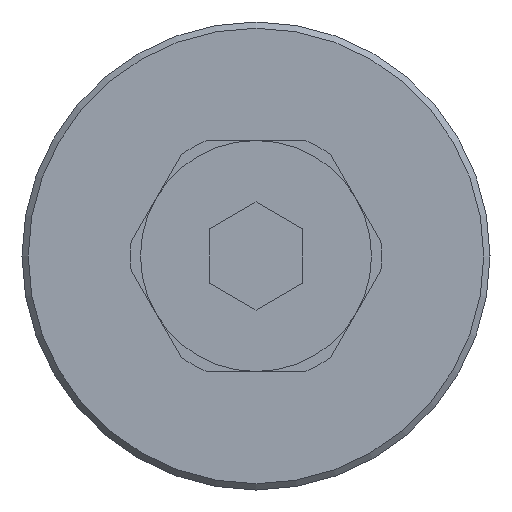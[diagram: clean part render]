
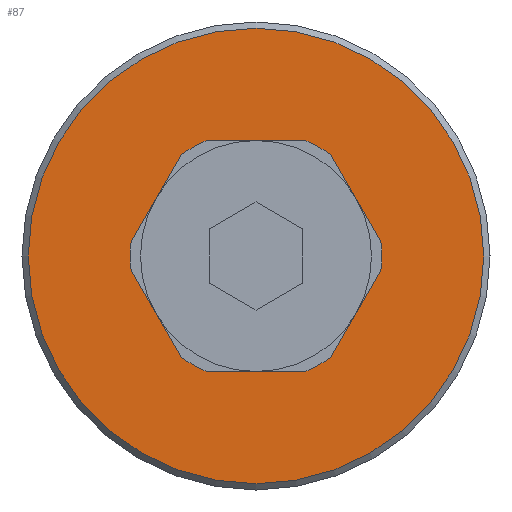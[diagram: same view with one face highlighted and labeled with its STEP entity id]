
A CAD part, left-side view. The second image highlights one B-rep face of the part: STEP entity #87.
In plain terms, the highlighted planar face has unit normal (-1, 0, 0).
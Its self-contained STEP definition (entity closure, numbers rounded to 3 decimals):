
#87 = ADVANCED_FACE( '', ( #201, #202 ), #203, .F. );
#201 = FACE_OUTER_BOUND( '', #348, .T. );
#202 = FACE_BOUND( '', #349, .T. );
#203 = PLANE( '', #350 );
#348 = EDGE_LOOP( '', ( #539 ) );
#349 = EDGE_LOOP( '', ( #540, #541, #542, #543, #544, #545, #546, #547, #548, #549, #550, #551 ) );
#350 = AXIS2_PLACEMENT_3D( '', #552, #553, #554 );
#539 = ORIENTED_EDGE( '', *, *, #823, .F. );
#540 = ORIENTED_EDGE( '', *, *, #793, .T. );
#541 = ORIENTED_EDGE( '', *, *, #825, .T. );
#542 = ORIENTED_EDGE( '', *, *, #826, .T. );
#543 = ORIENTED_EDGE( '', *, *, #827, .T. );
#544 = ORIENTED_EDGE( '', *, *, #808, .T. );
#545 = ORIENTED_EDGE( '', *, *, #828, .T. );
#546 = ORIENTED_EDGE( '', *, *, #829, .T. );
#547 = ORIENTED_EDGE( '', *, *, #830, .T. );
#548 = ORIENTED_EDGE( '', *, *, #831, .F. );
#549 = ORIENTED_EDGE( '', *, *, #817, .T. );
#550 = ORIENTED_EDGE( '', *, *, #832, .T. );
#551 = ORIENTED_EDGE( '', *, *, #800, .T. );
#552 = CARTESIAN_POINT( '', ( 0., 0., 0. ) );
#553 = DIRECTION( '', ( 1., 0., 0. ) );
#554 = DIRECTION( '', ( 0., 0., -1. ) );
#793 = EDGE_CURVE( '', #927, #928, #929, .T. );
#800 = EDGE_CURVE( '', #939, #927, #940, .T. );
#808 = EDGE_CURVE( '', #952, #953, #954, .T. );
#817 = EDGE_CURVE( '', #966, #964, #967, .T. );
#823 = EDGE_CURVE( '', #975, #975, #976, .T. );
#825 = EDGE_CURVE( '', #928, #978, #979, .T. );
#826 = EDGE_CURVE( '', #978, #980, #981, .T. );
#827 = EDGE_CURVE( '', #980, #952, #982, .T. );
#828 = EDGE_CURVE( '', #953, #983, #984, .T. );
#829 = EDGE_CURVE( '', #983, #985, #986, .T. );
#830 = EDGE_CURVE( '', #985, #987, #988, .T. );
#831 = EDGE_CURVE( '', #966, #987, #989, .F. );
#832 = EDGE_CURVE( '', #964, #939, #990, .T. );
#927 = VERTEX_POINT( '', #1106 );
#928 = VERTEX_POINT( '', #1107 );
#929 = CIRCLE( '', #1108, 4.03 );
#939 = VERTEX_POINT( '', #1122 );
#940 = LINE( '', #1123, #1124 );
#952 = VERTEX_POINT( '', #1141 );
#953 = VERTEX_POINT( '', #1142 );
#954 = CIRCLE( '', #1143, 4.03 );
#964 = VERTEX_POINT( '', #1157 );
#966 = VERTEX_POINT( '', #1160 );
#967 = LINE( '', #1161, #1162 );
#975 = VERTEX_POINT( '', #1171 );
#976 = CIRCLE( '', #1172, 7.3 );
#978 = VERTEX_POINT( '', #1174 );
#979 = LINE( '', #1175, #1176 );
#980 = VERTEX_POINT( '', #1177 );
#981 = CIRCLE( '', #1178, 4.03 );
#982 = LINE( '', #1179, #1180 );
#983 = VERTEX_POINT( '', #1181 );
#984 = LINE( '', #1182, #1183 );
#985 = VERTEX_POINT( '', #1184 );
#986 = CIRCLE( '', #1185, 4.03 );
#987 = VERTEX_POINT( '', #1186 );
#988 = LINE( '', #1187, #1188 );
#989 = CIRCLE( '', #1189, 4.03 );
#990 = CIRCLE( '', #1190, 4.03 );
#1106 = CARTESIAN_POINT( '', ( 0., -1.597, 3.7 ) );
#1107 = CARTESIAN_POINT( '', ( 0., -2.406, 3.233 ) );
#1108 = AXIS2_PLACEMENT_3D( '', #1334, #1335, #1336 );
#1122 = CARTESIAN_POINT( '', ( 0., 1.597, 3.7 ) );
#1123 = CARTESIAN_POINT( '', ( 0., 1.597, 3.7 ) );
#1124 = VECTOR( '', #1344, 1000. );
#1141 = CARTESIAN_POINT( '', ( 0., -2.406, -3.233 ) );
#1142 = CARTESIAN_POINT( '', ( 0., -1.597, -3.7 ) );
#1143 = AXIS2_PLACEMENT_3D( '', #1350, #1351, #1352 );
#1157 = CARTESIAN_POINT( '', ( 0., 2.406, 3.233 ) );
#1160 = CARTESIAN_POINT( '', ( 0., 4.003, 0.467 ) );
#1161 = CARTESIAN_POINT( '', ( 0., 4.003, 0.467 ) );
#1162 = VECTOR( '', #1361, 1000. );
#1171 = CARTESIAN_POINT( '', ( 0., 0., -7.3 ) );
#1172 = AXIS2_PLACEMENT_3D( '', #1369, #1370, #1371 );
#1174 = CARTESIAN_POINT( '', ( 0., -4.003, 0.467 ) );
#1175 = CARTESIAN_POINT( '', ( 0., -2.406, 3.233 ) );
#1176 = VECTOR( '', #1372, 1000. );
#1177 = CARTESIAN_POINT( '', ( 0., -4.003, -0.467 ) );
#1178 = AXIS2_PLACEMENT_3D( '', #1373, #1374, #1375 );
#1179 = CARTESIAN_POINT( '', ( 0., -4.003, -0.467 ) );
#1180 = VECTOR( '', #1376, 1000. );
#1181 = CARTESIAN_POINT( '', ( 0., 1.597, -3.7 ) );
#1182 = CARTESIAN_POINT( '', ( 0., -1.597, -3.7 ) );
#1183 = VECTOR( '', #1377, 1000. );
#1184 = CARTESIAN_POINT( '', ( 0., 2.406, -3.233 ) );
#1185 = AXIS2_PLACEMENT_3D( '', #1378, #1379, #1380 );
#1186 = CARTESIAN_POINT( '', ( 0., 4.003, -0.467 ) );
#1187 = CARTESIAN_POINT( '', ( 0., 2.406, -3.233 ) );
#1188 = VECTOR( '', #1381, 1000. );
#1189 = AXIS2_PLACEMENT_3D( '', #1382, #1383, #1384 );
#1190 = AXIS2_PLACEMENT_3D( '', #1385, #1386, #1387 );
#1334 = CARTESIAN_POINT( '', ( 0., 0., 0. ) );
#1335 = DIRECTION( '', ( 1., 0., 0. ) );
#1336 = DIRECTION( '', ( 0., 0., -1. ) );
#1344 = DIRECTION( '', ( 0., -1., 0. ) );
#1350 = CARTESIAN_POINT( '', ( 0., 0., 0. ) );
#1351 = DIRECTION( '', ( 1., 0., 0. ) );
#1352 = DIRECTION( '', ( 0., 0., -1. ) );
#1361 = DIRECTION( '', ( 0., -0.5, 0.866 ) );
#1369 = CARTESIAN_POINT( '', ( 0., 0., 0. ) );
#1370 = DIRECTION( '', ( 1., 0., 0. ) );
#1371 = DIRECTION( '', ( 0., 0., -1. ) );
#1372 = DIRECTION( '', ( 0., -0.5, -0.866 ) );
#1373 = CARTESIAN_POINT( '', ( 0., 0., 0. ) );
#1374 = DIRECTION( '', ( 1., 0., 0. ) );
#1375 = DIRECTION( '', ( 0., 0., -1. ) );
#1376 = DIRECTION( '', ( 0., 0.5, -0.866 ) );
#1377 = DIRECTION( '', ( 0., 1., 0. ) );
#1378 = CARTESIAN_POINT( '', ( 0., 0., 0. ) );
#1379 = DIRECTION( '', ( 1., 0., 0. ) );
#1380 = DIRECTION( '', ( 0., 0., -1. ) );
#1381 = DIRECTION( '', ( 0., 0.5, 0.866 ) );
#1382 = CARTESIAN_POINT( '', ( 0., 0., 0. ) );
#1383 = DIRECTION( '', ( 1., 0., 0. ) );
#1384 = DIRECTION( '', ( 0., 0., -1. ) );
#1385 = CARTESIAN_POINT( '', ( 0., 0., 0. ) );
#1386 = DIRECTION( '', ( 1., 0., 0. ) );
#1387 = DIRECTION( '', ( 0., 0., -1. ) );
